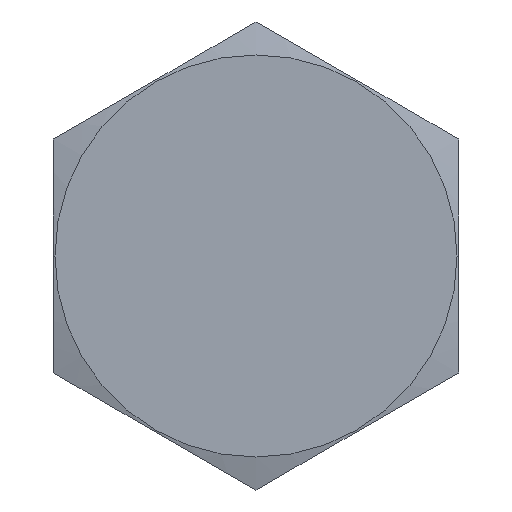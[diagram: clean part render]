
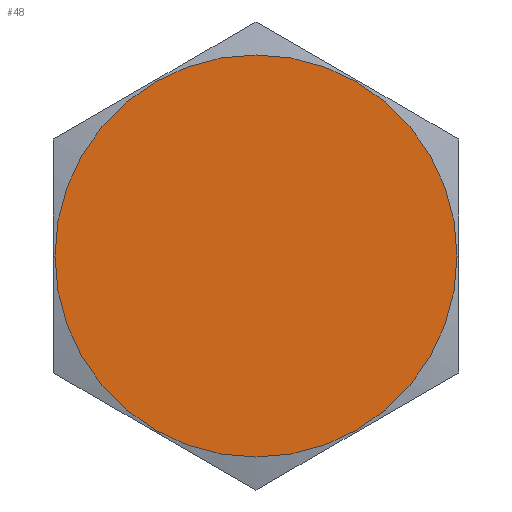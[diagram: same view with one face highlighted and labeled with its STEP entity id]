
A CAD part, left-side view. The second image highlights one B-rep face of the part: STEP entity #48.
In plain terms, the highlighted planar face has unit normal (-1, 0, 0).
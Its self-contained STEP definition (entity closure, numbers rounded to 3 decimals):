
#48 = ADVANCED_FACE( '', ( #111 ), #112, .T. );
#111 = FACE_OUTER_BOUND( '', #199, .T. );
#112 = PLANE( '', #200 );
#199 = EDGE_LOOP( '', ( #288 ) );
#200 = AXIS2_PLACEMENT_3D( '', #289, #290, #291 );
#288 = ORIENTED_EDGE( '', *, *, #436, .T. );
#289 = CARTESIAN_POINT( '', ( -24., -12., -6.928 ) );
#290 = DIRECTION( '', ( -1., 0., 0. ) );
#291 = DIRECTION( '', ( 0., -1., 0. ) );
#436 = EDGE_CURVE( '', #497, #497, #498, .T. );
#497 = VERTEX_POINT( '', #627 );
#498 = CIRCLE( '', #628, 11.906 );
#627 = CARTESIAN_POINT( '', ( -24., 0., 11.906 ) );
#628 = AXIS2_PLACEMENT_3D( '', #750, #751, #752 );
#750 = CARTESIAN_POINT( '', ( -24., 0., 0. ) );
#751 = DIRECTION( '', ( -1., 0., 0. ) );
#752 = DIRECTION( '', ( 0., 0., 1. ) );
